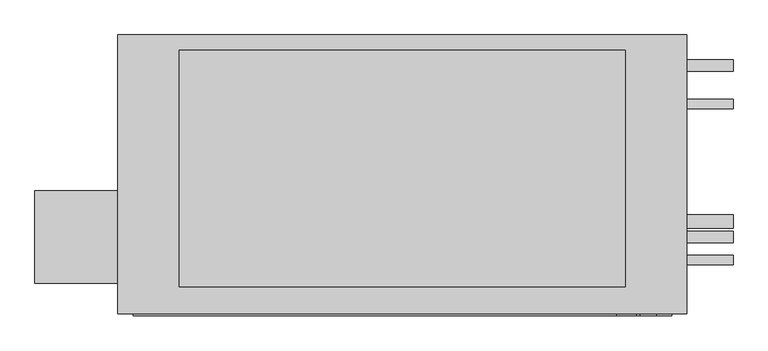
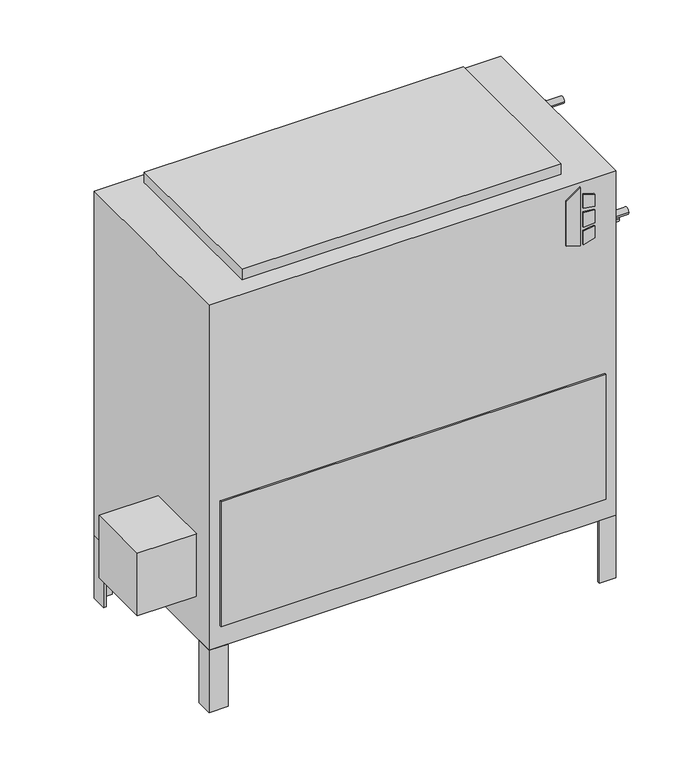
"""IFC4 building model written with IfcOpenShell, lengths in millimetres: proxy geometry, Concealed_High_Capacity_Vertical_Fan_Coil_Unit_-_VEY_-_IEC_-_4-Pipe_RH_2022 : Size 12 - 277v/60Hz/1Ph - 4/2 Coil."""

from ifc_helpers import new_model, si_unit, point, frame, frame_2d, origin, origin_with_axes, place, context, project, spatial, polyline, circle_curve, trimmed, segment, composite_curve, outline, extrude, source, transform, mapped, element, save


def mechanical_equipment_3f06e7ef(model_context):
    return source(origin(), model_context, "Body", "SweptSolid", [
        extrude(outline(polyline([(698.9230703, 506.4868862), (688.975, 538.6602728), (831.1459244, 538.6602728), (808.1239183, 506.4868862), (698.9230703, 506.4868862)])), frame((0.0, -471.4875, 0.0), z_axis=(0.0, 1.0, 0.0), x_axis=(0.0, 0.0, 1.0)), (0.0, 0.0, 1.0), 3.175),
        extrude(outline(polyline([(777.9223557, 545.4186058), (774.7199632, 571.5), (803.9488042, 571.5), (812.0132193, 545.4186058), (777.9223557, 545.4186058)])), frame((0.0, -471.4875, 0.0), z_axis=(0.0, 1.0, 0.0), x_axis=(0.0, 0.0, 1.0)), (0.0, 0.0, 1.0), 3.175),
        extrude(outline(polyline([(726.0588288, 571.5), (722.3933279, 545.4186058), (688.975, 545.4186058), (697.6092372, 571.5), (726.0588288, 571.5)])), frame((0.0, -471.4875, 0.0), z_axis=(0.0, 1.0, 0.0), x_axis=(0.0, 0.0, 1.0)), (0.0, 0.0, 1.0), 3.175),
        extrude(outline(polyline([(765.3739903, 571.5), (767.6558166, 545.4186058), (731.7182681, 545.4186058), (734.4595331, 571.5), (765.3739903, 571.5)])), frame((0.0, -471.4875, 0.0), z_axis=(0.0, 1.0, 0.0), x_axis=(0.0, 0.0, 1.0)), (0.0, 0.0, 1.0), 3.175),
        extrude(outline(polyline([(-454.025, -417.5125), (-454.025, -265.1125), (-317.5, -265.1125), (-317.5, -417.5125), (-454.025, -417.5125)])), frame((0.0, 0.0, 101.6), z_axis=(0.0, 0.0, 1.0), x_axis=(1.0, 0.0, 0.0)), (0.0, 0.0, 1.0), 152.4),
        extrude(outline(polyline([(622.3, -46.0375), (615.95, -46.0375), (615.95, -14.2875), (584.2, -14.2875), (584.2, -7.9375), (622.3, -7.9375), (622.3, -46.0375)])), frame((0.0, 0.0, -152.4), z_axis=(0.0, 0.0, 1.0), x_axis=(1.0, 0.0, 0.0)), (0.0, 0.0, 1.0), 152.4),
        extrude(outline(polyline([(-279.4, -7.9375), (-279.4, -14.2875), (-311.15, -14.2875), (-311.15, -46.0375), (-317.5, -46.0375), (-317.5, -7.9375), (-279.4, -7.9375)])), frame((0.0, 0.0, -152.4), z_axis=(0.0, 0.0, 1.0), x_axis=(1.0, 0.0, 0.0)), (0.0, 0.0, 1.0), 152.4),
        extrude(outline(polyline([(584.2, -468.3125), (584.2, -461.9625), (615.95, -461.9625), (615.95, -430.2125), (622.3, -430.2125), (622.3, -468.3125), (584.2, -468.3125)])), frame((0.0, 0.0, -152.4), z_axis=(0.0, 0.0, 1.0), x_axis=(1.0, 0.0, 0.0)), (0.0, 0.0, 1.0), 152.4),
        extrude(outline(polyline([(-317.5, -428.1199163), (-311.15, -428.1199163), (-311.15, -461.9625), (-274.0318533, -461.9625), (-274.0318533, -468.3125), (-317.5, -468.3125), (-317.5, -428.1199163)])), frame((0.0, 0.0, -152.4), z_axis=(0.0, 0.0, 1.0), x_axis=(1.0, 0.0, 0.0)), (0.0, 0.0, 1.0), 152.4),
        extrude(outline(polyline([(520.7, -33.3375), (520.7, -423.8625), (-215.9, -423.8625), (-215.9, -33.3375), (520.7, -33.3375)])), frame((0.0, 0.0, 841.375), z_axis=(0.0, 0.0, 1.0), x_axis=(1.0, 0.0, 0.0)), (0.0, 0.0, 1.0), 25.4),
        extrude(outline(polyline([(596.9, -471.4875), (-292.1, -471.4875), (-292.1, -468.3125), (596.9, -468.3125), (596.9, -471.4875)])), frame((0.0, 0.0, 50.8), z_axis=(0.0, 0.0, 1.0), x_axis=(1.0, 0.0, 0.0)), (0.0, 0.0, 1.0), 304.8),
        extrude(outline(composite_curve([segment(trimmed(circle_curve(frame_2d((-122.2375, 777.875)), 7.9375), [point((-114.3, 777.875))], [point((-130.175, 777.875))], False, "CARTESIAN"), True, "CONTINUOUS"), segment(trimmed(circle_curve(frame_2d((-122.2375, 777.875)), 7.9375), [point((-130.175, 777.875))], [point((-114.3, 777.875))], False, "CARTESIAN"), True, "CONTINUOUS")], self_intersect=False)), frame((622.3, 0.0, 0.0), z_axis=(1.0, 0.0, 0.0), x_axis=(0.0, 1.0, 0.0)), (0.0, 0.0, 1.0), 76.2),
        extrude(outline(composite_curve([segment(trimmed(circle_curve(frame_2d((-379.4125, 663.575)), 7.9375), [point((-371.475, 663.575))], [point((-387.35, 663.575))], False, "CARTESIAN"), True, "CONTINUOUS"), segment(trimmed(circle_curve(frame_2d((-379.4125, 663.575)), 7.9375), [point((-387.35, 663.575))], [point((-371.475, 663.575))], False, "CARTESIAN"), True, "CONTINUOUS")], self_intersect=False)), frame((622.3, 0.0, 0.0), z_axis=(1.0, 0.0, 0.0), x_axis=(0.0, 1.0, 0.0)), (0.0, 0.0, 1.0), 76.2),
        extrude(outline(composite_curve([segment(trimmed(circle_curve(frame_2d((-58.7375, 727.075)), 9.525), [point((-49.2125, 727.075))], [point((-68.2625, 727.075))], False, "CARTESIAN"), True, "CONTINUOUS"), segment(trimmed(circle_curve(frame_2d((-58.7375, 727.075)), 9.525), [point((-68.2625, 727.075))], [point((-49.2125, 727.075))], False, "CARTESIAN"), True, "CONTINUOUS")], self_intersect=False)), frame((622.3, 0.0, 0.0), z_axis=(1.0, 0.0, 0.0), x_axis=(0.0, 1.0, 0.0)), (0.0, 0.0, 1.0), 76.2),
        extrude(outline(composite_curve([segment(trimmed(circle_curve(frame_2d((-341.3125, 625.475)), 9.525), [point((-331.7875, 625.475))], [point((-350.8375, 625.475))], False, "CARTESIAN"), True, "CONTINUOUS"), segment(trimmed(circle_curve(frame_2d((-341.3125, 625.475)), 9.525), [point((-350.8375, 625.475))], [point((-331.7875, 625.475))], False, "CARTESIAN"), True, "CONTINUOUS")], self_intersect=False)), frame((622.3, 0.0, 0.0), z_axis=(1.0, 0.0, 0.0), x_axis=(0.0, 1.0, 0.0)), (0.0, 0.0, 1.0), 76.2),
        extrude(outline(composite_curve([segment(trimmed(circle_curve(frame_2d((-315.9125, 536.575)), 11.1125), [point((-304.8, 536.575))], [point((-327.025, 536.575))], False, "CARTESIAN"), True, "CONTINUOUS"), segment(trimmed(circle_curve(frame_2d((-315.9125, 536.575)), 11.1125), [point((-327.025, 536.575))], [point((-304.8, 536.575))], False, "CARTESIAN"), True, "CONTINUOUS")], self_intersect=False)), frame((622.3, 0.0, 0.0), z_axis=(1.0, 0.0, 0.0), x_axis=(0.0, 1.0, 0.0)), (0.0, 0.0, 1.0), 76.2),
        extrude(outline(polyline([(622.3, -7.9375), (622.3, -468.3125), (-317.5, -468.3125), (-317.5, -7.9375), (622.3, -7.9375)])), origin_with_axes(), (0.0, 0.0, 1.0), 841.375),
    ])


if __name__ == "__main__":
    model = new_model("IFC4")
    model_context = context("Model", 3, world=origin())
    ifc_project = project(units=[si_unit("LENGTHUNIT", "METRE", prefix="MILLI")], contexts=[model_context])
    site = spatial("IfcSite", under=ifc_project)
    building = spatial("IfcBuilding", under=site)
    placement = place(None, origin())
    mechanical_equipment_shape = mechanical_equipment_3f06e7ef(model_context)
    element("IfcBuildingElementProxy", 1, Name="Concealed_High_Capacity_Vertical_Fan_Coil_Unit_-_VEY_-_IEC_-_4-Pipe_RH_2022 : Size 12 - 277v/60Hz/1Ph - 4/2 Coil", ObjectType="Concealed_High_Capacity_Vertical_Fan_Coil_Unit_-_VEY_-_IEC_-_4-Pipe_RH_2022 : Size 12 - 277v/60Hz/1Ph - 4/2 Coil", at=placement, inside=building, context=model_context, shape_type="MappedRepresentation", body=[
        mapped(mechanical_equipment_shape, transform((0.0, 0.0, 0.0), x_axis=(1.0, 0.0, 0.0), y_axis=(0.0, 1.0, 0.0), z_axis=(0.0, 0.0, 1.0))),
    ])
    save(model, "model.ifc")
